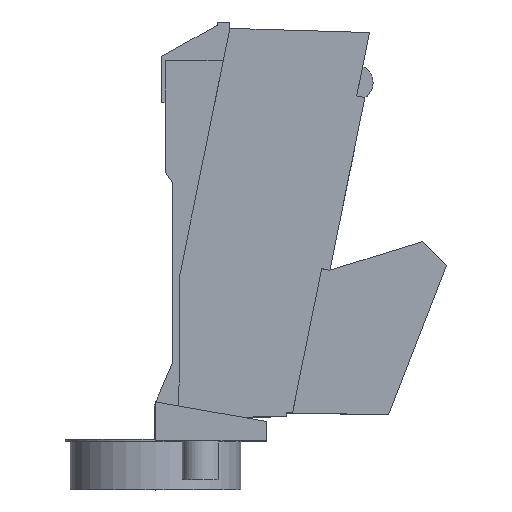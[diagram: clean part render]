
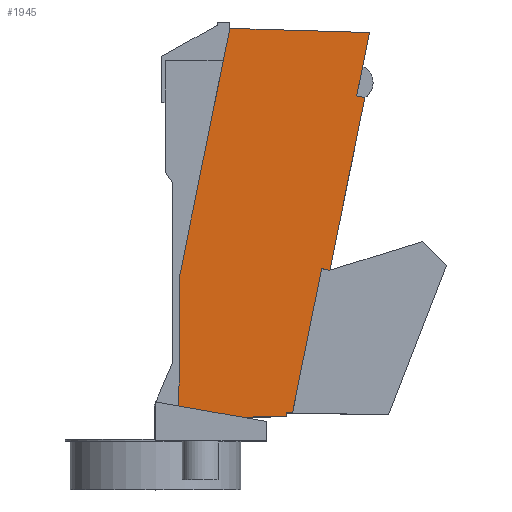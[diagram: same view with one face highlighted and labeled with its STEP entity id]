
A CAD part, top view. The second image highlights one B-rep face of the part: STEP entity #1945.
In plain terms, the highlighted planar face has unit normal (0, 0, 1).
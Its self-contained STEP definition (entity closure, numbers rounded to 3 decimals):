
#38 = ORIENTED_EDGE ( 'NONE', *, *, #945, .T. ) ;
#55 = CARTESIAN_POINT ( 'NONE',  ( 38.299, -3.408, 12.1 ) ) ;
#63 = VECTOR ( 'NONE', #1221, 1000. ) ;
#78 = CARTESIAN_POINT ( 'NONE',  ( 7.215, -38.5, 12.1 ) ) ;
#91 = VECTOR ( 'NONE', #401, 1000. ) ;
#123 = CIRCLE ( 'NONE', #1202, 3. ) ;
#125 = CARTESIAN_POINT ( 'NONE',  ( 38.299, -3.408, 12.1 ) ) ;
#138 = VERTEX_POINT ( 'NONE', #321 ) ;
#152 = EDGE_CURVE ( 'NONE', #1336, #190, #123, .T. ) ;
#158 = CARTESIAN_POINT ( 'NONE',  ( 20.1, -33.592, 12.1 ) ) ;
#172 = VERTEX_POINT ( 'NONE', #1905 ) ;
#190 = VERTEX_POINT ( 'NONE', #272 ) ;
#191 = LINE ( 'NONE', #55, #457 ) ;
#243 = CARTESIAN_POINT ( 'NONE',  ( 46.47, 45.41, 12.1 ) ) ;
#247 = LINE ( 'NONE', #710, #1971 ) ;
#249 = DIRECTION ( 'NONE',  ( 0.98, -0.199, 0. ) ) ;
#260 = CARTESIAN_POINT ( 'NONE',  ( 0.838, 4.193, 12.1 ) ) ;
#261 = VECTOR ( 'NONE', #249, 1000. ) ;
#267 = DIRECTION ( 'NONE',  ( 0.985, -0.174, 0. ) ) ;
#272 = CARTESIAN_POINT ( 'NONE',  ( 20.335, -33.58, 12.1 ) ) ;
#306 = ORIENTED_EDGE ( 'NONE', *, *, #1578, .T. ) ;
#312 = DIRECTION ( 'NONE',  ( 1., 0., 0. ) ) ;
#321 = CARTESIAN_POINT ( 'NONE',  ( 17.765, 46.272, 12.1 ) ) ;
#322 = DIRECTION ( 'NONE',  ( 1., 0.011, 0. ) ) ;
#342 = CARTESIAN_POINT ( 'NONE',  ( 7.52, -4.22, 12.1 ) ) ;
#345 = ORIENTED_EDGE ( 'NONE', *, *, #794, .T. ) ;
#374 = EDGE_CURVE ( 'NONE', #686, #716, #585, .T. ) ;
#395 = VECTOR ( 'NONE', #1407, 1000. ) ;
#401 = DIRECTION ( 'NONE',  ( -0.009, -1., 0. ) ) ;
#457 = VECTOR ( 'NONE', #1315, 1000. ) ;
#481 = VERTEX_POINT ( 'NONE', #2038 ) ;
#482 = LINE ( 'NONE', #1707, #1404 ) ;
#487 = DIRECTION ( 'NONE',  ( 0., 0., -1. ) ) ;
#539 = VERTEX_POINT ( 'NONE', #342 ) ;
#543 = DIRECTION ( 'NONE',  ( 0., 1., 0. ) ) ;
#585 = LINE ( 'NONE', #1530, #1239 ) ;
#592 = EDGE_LOOP ( 'NONE', ( #345, #923, #1885, #1591, #1769, #673, #38, #306, #1544, #1330, #1883, #1430, #726 ) ) ;
#650 = VERTEX_POINT ( 'NONE', #1129 ) ;
#656 = CARTESIAN_POINT ( 'NONE',  ( 29.38, -32.715, 12.1 ) ) ;
#673 = ORIENTED_EDGE ( 'NONE', *, *, #374, .T. ) ;
#686 = VERTEX_POINT ( 'NONE', #656 ) ;
#704 = LINE ( 'NONE', #1201, #1078 ) ;
#710 = CARTESIAN_POINT ( 'NONE',  ( 20.871, -33.728, 12.1 ) ) ;
#716 = VERTEX_POINT ( 'NONE', #823 ) ;
#726 = ORIENTED_EDGE ( 'NONE', *, *, #2016, .T. ) ;
#791 = CARTESIAN_POINT ( 'NONE',  ( 20.368, -36.58, 12.1 ) ) ;
#794 = EDGE_CURVE ( 'NONE', #539, #1853, #1528, .T. ) ;
#803 = DIRECTION ( 'NONE',  ( 0., 0., 1. ) ) ;
#821 = VECTOR ( 'NONE', #322, 1000. ) ;
#823 = CARTESIAN_POINT ( 'NONE',  ( 30.613, -32.737, 12.1 ) ) ;
#884 = DIRECTION ( 'NONE',  ( 1., -0.017, 0. ) ) ;
#903 = CARTESIAN_POINT ( 'NONE',  ( 17.765, 46.272, 12.1 ) ) ;
#909 = CARTESIAN_POINT ( 'NONE',  ( 17.765, 46.272, 12.1 ) ) ;
#923 = ORIENTED_EDGE ( 'NONE', *, *, #1990, .T. ) ;
#945 = EDGE_CURVE ( 'NONE', #716, #976, #482, .T. ) ;
#949 = FACE_OUTER_BOUND ( 'NONE', #592, .T. ) ;
#976 = VERTEX_POINT ( 'NONE', #1413 ) ;
#1022 = CARTESIAN_POINT ( 'NONE',  ( 29.38, -33.48, 12.1 ) ) ;
#1030 = LINE ( 'NONE', #1022, #1211 ) ;
#1045 = VECTOR ( 'NONE', #1535, 1000. ) ;
#1069 = EDGE_CURVE ( 'NONE', #481, #1675, #191, .T. ) ;
#1078 = VECTOR ( 'NONE', #1832, 1000. ) ;
#1100 = LINE ( 'NONE', #909, #1045 ) ;
#1117 = DIRECTION ( 'NONE',  ( 0.199, 0.98, 0. ) ) ;
#1121 = CARTESIAN_POINT ( 'NONE',  ( 7.279, -31.331, 12.1 ) ) ;
#1129 = CARTESIAN_POINT ( 'NONE',  ( 29.38, -33.48, 12.1 ) ) ;
#1179 = LINE ( 'NONE', #1744, #821 ) ;
#1201 = CARTESIAN_POINT ( 'NONE',  ( 45.06, 38.462, 12.1 ) ) ;
#1202 = AXIS2_PLACEMENT_3D ( 'NONE', #1720, #487, #312 ) ;
#1211 = VECTOR ( 'NONE', #543, 1000. ) ;
#1221 = DIRECTION ( 'NONE',  ( -0.199, -0.98, 0. ) ) ;
#1239 = VECTOR ( 'NONE', #884, 1000. ) ;
#1246 = LINE ( 'NONE', #1363, #395 ) ;
#1271 = VERTEX_POINT ( 'NONE', #243 ) ;
#1302 = EDGE_CURVE ( 'NONE', #1271, #138, #1100, .T. ) ;
#1315 = DIRECTION ( 'NONE',  ( -0.199, -0.98, 0. ) ) ;
#1330 = ORIENTED_EDGE ( 'NONE', *, *, #1715, .F. ) ;
#1336 = VERTEX_POINT ( 'NONE', #158 ) ;
#1356 = LINE ( 'NONE', #260, #261 ) ;
#1363 = CARTESIAN_POINT ( 'NONE',  ( 8.032, 39.652, 12.1 ) ) ;
#1404 = VECTOR ( 'NONE', #1117, 1000. ) ;
#1407 = DIRECTION ( 'NONE',  ( 0.98, -0.199, 0. ) ) ;
#1413 = CARTESIAN_POINT ( 'NONE',  ( 36.633, -3.07, 12.1 ) ) ;
#1426 = DIRECTION ( 'NONE',  ( 1., 0., 0. ) ) ;
#1430 = ORIENTED_EDGE ( 'NONE', *, *, #1302, .T. ) ;
#1528 = LINE ( 'NONE', #78, #91 ) ;
#1530 = CARTESIAN_POINT ( 'NONE',  ( 29.38, -32.715, 12.1 ) ) ;
#1535 = DIRECTION ( 'NONE',  ( -1., 0.03, 0. ) ) ;
#1544 = ORIENTED_EDGE ( 'NONE', *, *, #1069, .F. ) ;
#1577 = PLANE ( 'NONE',  #1611 ) ;
#1578 = EDGE_CURVE ( 'NONE', #976, #1675, #1356, .T. ) ;
#1591 = ORIENTED_EDGE ( 'NONE', *, *, #1927, .T. ) ;
#1600 = EDGE_CURVE ( 'NONE', #650, #686, #1030, .T. ) ;
#1611 = AXIS2_PLACEMENT_3D ( 'NONE', #791, #803, #1426 ) ;
#1616 = EDGE_CURVE ( 'NONE', #172, #1271, #704, .T. ) ;
#1675 = VERTEX_POINT ( 'NONE', #125 ) ;
#1707 = CARTESIAN_POINT ( 'NONE',  ( 45.06, 38.462, 12.1 ) ) ;
#1715 = EDGE_CURVE ( 'NONE', #172, #481, #1246, .T. ) ;
#1720 = CARTESIAN_POINT ( 'NONE',  ( 20.368, -36.58, 12.1 ) ) ;
#1744 = CARTESIAN_POINT ( 'NONE',  ( 20.335, -33.58, 12.1 ) ) ;
#1769 = ORIENTED_EDGE ( 'NONE', *, *, #1600, .T. ) ;
#1832 = DIRECTION ( 'NONE',  ( 0.199, 0.98, 0. ) ) ;
#1848 = LINE ( 'NONE', #903, #63 ) ;
#1853 = VERTEX_POINT ( 'NONE', #1121 ) ;
#1883 = ORIENTED_EDGE ( 'NONE', *, *, #1616, .T. ) ;
#1885 = ORIENTED_EDGE ( 'NONE', *, *, #152, .T. ) ;
#1905 = CARTESIAN_POINT ( 'NONE',  ( 43.828, 32.389, 12.1 ) ) ;
#1927 = EDGE_CURVE ( 'NONE', #190, #650, #1179, .T. ) ;
#1945 = ADVANCED_FACE ( 'NONE', ( #949 ), #1577, .T. ) ;
#1971 = VECTOR ( 'NONE', #267, 1000. ) ;
#1990 = EDGE_CURVE ( 'NONE', #1853, #1336, #247, .T. ) ;
#2016 = EDGE_CURVE ( 'NONE', #138, #539, #1848, .T. ) ;
#2038 = CARTESIAN_POINT ( 'NONE',  ( 45.494, 32.051, 12.1 ) ) ;
